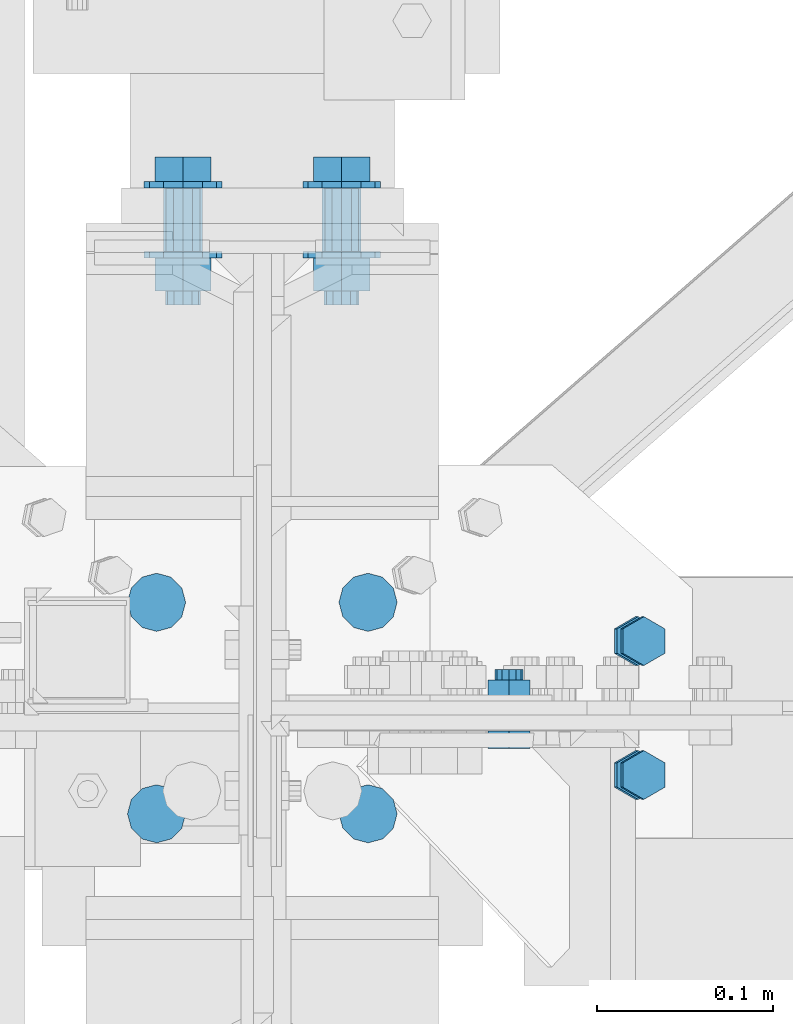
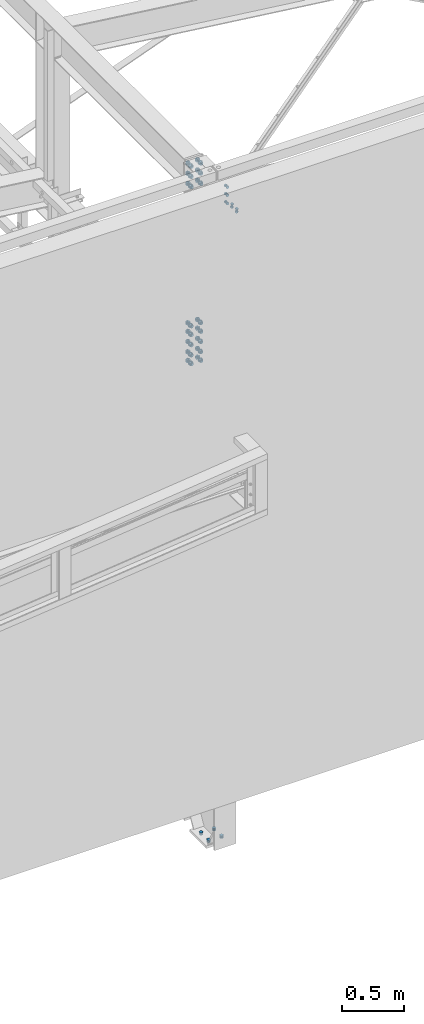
# One storey, part 110 of 3134: 5 mechanical fasteners, 3 elements without a shape of their own.
"""IFC2X3 building model written with IfcOpenShell, lengths in millimetres."""

from ifc_helpers import new_model, si_unit, frame, origin_with_axes, place, context, subcontext, project, spatial, faceted_brep, source, transform, mapped, material, type_object, element, aggregate, save


model = new_model("IFC2X3")

# Units and contexts
model_context = context("Model", 3, precision=1e-05, world=origin_with_axes())
body_context = subcontext(model_context, "Body", "Model", "MODEL_VIEW")
ifc_project = project(units=[si_unit("LENGTHUNIT", "METRE", prefix="MILLI"), si_unit("AREAUNIT", "SQUARE_METRE"), si_unit("VOLUMEUNIT", "CUBIC_METRE"), si_unit("MASSUNIT", "GRAM", prefix="KILO"), si_unit("TIMEUNIT", "SECOND"), si_unit("PLANEANGLEUNIT", "RADIAN"), si_unit("SOLIDANGLEUNIT", "STERADIAN"), si_unit("THERMODYNAMICTEMPERATUREUNIT", "DEGREE_CELSIUS"), si_unit("LUMINOUSINTENSITYUNIT", "LUMEN")], contexts=[model_context])

# Site, building, storey
site_placement = place(None, origin_with_axes())
site = spatial("IfcSite", under=ifc_project, at=site_placement, CompositionType="ELEMENT")
building_placement = place(site_placement, origin_with_axes())
building = spatial("IfcBuilding", under=site, at=building_placement, Name="Undefined", CompositionType="ELEMENT")
storey_placement = place(building_placement, origin_with_axes())
storey = spatial("IfcBuildingStorey", under=building, at=storey_placement, Name="Undefined", CompositionType="ELEMENT", Elevation=0.0)

# Assembly, mechanical fasteners
assembly_1_placement = place(storey_placement, origin_with_axes())
assembly_1 = element("IfcElementAssembly", 1, at=assembly_1_placement, inside=storey, Name="300", AssemblyPlace="NOTDEFINED", PredefinedType="RIGID_FRAME")
ifc_material_1 = material(Name="HR10.9")
mechanical_fastener_type = type_object("IfcMechanicalFastenerType", Name="Bolt assembly")
shared_shape_1 = source(origin_with_axes(), body_context, "Body", "Brep", [
    faceted_brep([(18.475208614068, -17.599999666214, 0.0), (9.23760430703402, -17.599999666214, 16.0), (-9.23760430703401, -17.599999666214, 16.0), (-18.475208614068, -17.599999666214, 2.2625605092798e-15), (-9.23760430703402, -17.599999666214, -16.0), (9.237604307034, -17.599999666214, -16.0), (9.237604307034, -3.70000004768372, -16.0), (-9.23760430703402, -3.70000004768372, -16.0), (-18.475208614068, -3.70000004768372, 2.2625605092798e-15), (-9.23760430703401, -3.70000004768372, 16.0), (9.23760430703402, -3.70000004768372, 16.0), (18.475208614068, -3.70000004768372, 0.0), (10.0, -3.70000004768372, 0.0), (8.66025403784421, -3.70000004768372, 5.0000000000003), (4.9999999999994, -3.70000004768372, 8.66025403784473), (-1.03633598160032e-12, -3.70000004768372, 10.0), (-5.00000000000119, -3.70000004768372, 8.6602540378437), (-8.66025403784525, -3.70000004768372, 4.99999999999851), (-10.0, -3.70000004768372, -2.07267196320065e-12), (-8.66025403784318, -3.70000004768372, -5.00000000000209), (-4.99999999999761, -3.70000004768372, -8.66025403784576), (3.09790571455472e-12, -3.70000004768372, -10.0), (5.00000000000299, -3.70000004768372, -8.66025403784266), (8.66025403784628, -3.70000004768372, -4.99999999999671), (8.66025403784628, 66.2999999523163, -4.99999999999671), (5.00000000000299, 66.2999999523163, -8.66025403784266), (3.09790571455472e-12, 66.2999999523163, -10.0), (-4.99999999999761, 66.2999999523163, -8.66025403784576), (-8.66025403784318, 66.2999999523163, -5.00000000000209), (-10.0, 66.2999999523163, -2.07267196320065e-12), (-8.66025403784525, 66.2999999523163, 4.99999999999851), (-5.00000000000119, 66.2999999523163, 8.6602540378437), (-1.03633598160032e-12, 66.2999999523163, 10.0), (4.9999999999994, 66.2999999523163, 8.66025403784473), (8.66025403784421, 66.2999999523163, 5.0000000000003), (10.0, 66.2999999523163, 0.0), (22.0, -3.70000004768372, 0.0), (19.0525588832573, -3.70000004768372, 11.0000000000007), (10.9999999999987, -3.70000004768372, 19.0525588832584), (-2.27993915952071e-12, -3.70000004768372, 22.0), (-11.0000000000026, -3.70000004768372, 19.0525588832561), (-19.0525588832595, -3.70000004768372, 10.9999999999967), (-22.0, -3.70000004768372, -4.55987831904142e-12), (-19.052558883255, -3.70000004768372, -11.0000000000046), (-10.9999999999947, -3.70000004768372, -19.0525588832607), (6.81539257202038e-12, -3.70000004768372, -22.0), (11.0000000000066, -3.70000004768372, -19.0525588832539), (19.0525588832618, -3.70000004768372, -10.9999999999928), (19.0525588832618, 0.0, -10.9999999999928), (11.0000000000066, 0.0, -19.0525588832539), (6.81539257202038e-12, 0.0, -22.0), (-10.9999999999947, 0.0, -19.0525588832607), (-19.052558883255, 0.0, -11.0000000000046), (-22.0, 0.0, -4.55987831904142e-12), (-19.0525588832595, 0.0, 10.9999999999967), (-11.0000000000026, 0.0, 19.0525588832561), (-2.27993915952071e-12, 0.0, 22.0), (10.9999999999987, 0.0, 19.0525588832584), (19.0525588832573, 0.0, 11.0000000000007), (22.0, 0.0, 0.0), (22.0, 36.0, 0.0), (19.0525588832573, 36.0, 11.0000000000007), (10.9999999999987, 36.0, 19.0525588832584), (-2.27993915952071e-12, 36.0, 22.0), (-11.0000000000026, 36.0, 19.0525588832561), (-19.0525588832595, 36.0, 10.9999999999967), (-22.0, 36.0, -4.55987831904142e-12), (-19.052558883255, 36.0, -11.0000000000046), (-10.9999999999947, 36.0, -19.0525588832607), (6.81539257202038e-12, 36.0, -22.0), (11.0000000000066, 36.0, -19.0525588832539), (19.0525588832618, 36.0, -10.9999999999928), (19.0525588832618, 39.7000000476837, -10.9999999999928), (11.0000000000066, 39.7000000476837, -19.0525588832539), (6.81539257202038e-12, 39.7000000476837, -22.0), (-10.9999999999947, 39.7000000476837, -19.0525588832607), (-19.052558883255, 39.7000000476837, -11.0000000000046), (-22.0, 39.7000000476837, -4.55987831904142e-12), (-19.0525588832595, 39.7000000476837, 10.9999999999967), (-11.0000000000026, 39.7000000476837, 19.0525588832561), (-2.27993915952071e-12, 39.7000000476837, 22.0), (10.9999999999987, 39.7000000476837, 19.0525588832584), (19.0525588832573, 39.7000000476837, 11.0000000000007), (22.0, 39.7000000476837, 0.0), (18.475208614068, 39.7000000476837, 0.0), (9.23760430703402, 39.7000000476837, 16.0), (-9.23760430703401, 39.7000000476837, 16.0), (-18.475208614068, 39.7000000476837, 2.2625605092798e-15), (-9.23760430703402, 39.7000000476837, -16.0), (9.237604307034, 39.7000000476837, -16.0), (9.237604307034, 58.2499992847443, -16.0), (-9.23760430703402, 58.2499992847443, -16.0), (-18.475208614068, 58.2499992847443, 2.2625605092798e-15), (-9.23760430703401, 58.2499992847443, 16.0), (9.23760430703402, 58.2499992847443, 16.0), (18.475208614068, 58.2499992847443, 0.0)], [[[0, 1, 2, 3, 4, 5]], [[6, 7, 8, 9, 10, 11]], [[0, 11, 10, 1]], [[1, 10, 9, 2]], [[2, 9, 8, 3]], [[3, 8, 7, 4]], [[4, 7, 6, 5]], [[5, 6, 11, 0]], [[12, 13, 14, 15, 16, 17, 18, 19, 20, 21, 22, 23]], [[24, 25, 26, 27, 28, 29, 30, 31, 32, 33, 34, 35]], [[12, 35, 34, 13]], [[13, 34, 33, 14]], [[14, 33, 32, 15]], [[15, 32, 31, 16]], [[16, 31, 30, 17]], [[17, 30, 29, 18]], [[18, 29, 28, 19]], [[19, 28, 27, 20]], [[20, 27, 26, 21]], [[21, 26, 25, 22]], [[22, 25, 24, 23]], [[23, 24, 35, 12]], [[36, 37, 38, 39, 40, 41, 42, 43, 44, 45, 46, 47]], [[48, 49, 50, 51, 52, 53, 54, 55, 56, 57, 58, 59]], [[36, 59, 58, 37]], [[37, 58, 57, 38]], [[38, 57, 56, 39]], [[39, 56, 55, 40]], [[40, 55, 54, 41]], [[41, 54, 53, 42]], [[42, 53, 52, 43]], [[43, 52, 51, 44]], [[44, 51, 50, 45]], [[45, 50, 49, 46]], [[46, 49, 48, 47]], [[47, 48, 59, 36]], [[60, 61, 62, 63, 64, 65, 66, 67, 68, 69, 70, 71]], [[72, 73, 74, 75, 76, 77, 78, 79, 80, 81, 82, 83]], [[60, 83, 82, 61]], [[61, 82, 81, 62]], [[62, 81, 80, 63]], [[63, 80, 79, 64]], [[64, 79, 78, 65]], [[65, 78, 77, 66]], [[66, 77, 76, 67]], [[67, 76, 75, 68]], [[68, 75, 74, 69]], [[69, 74, 73, 70]], [[70, 73, 72, 71]], [[71, 72, 83, 60]], [[84, 85, 86, 87, 88, 89]], [[90, 91, 92, 93, 94, 95]], [[84, 95, 94, 85]], [[85, 94, 93, 86]], [[86, 93, 92, 87]], [[87, 92, 91, 88]], [[88, 91, 90, 89]], [[89, 90, 95, 84]]]),
    faceted_brep([(11.0, 19.9, 0.0), (9.52627944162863, 19.9, 5.50000000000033), (5.49999999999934, 19.9, 9.5262794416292), (-1.13996957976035e-12, 19.9, 11.0), (-5.50000000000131, 19.9, 9.52627944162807), (-9.52627944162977, 19.9, 5.49999999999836), (-11.0, 19.9, -2.27993915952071e-12), (-9.5262794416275, 19.9, -5.5000000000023), (-5.49999999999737, 19.9, -9.52627944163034), (3.40769628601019e-12, 19.9, -11.0), (5.50000000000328, 19.9, -9.52627944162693), (9.52627944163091, 19.9, -5.49999999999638), (9.52627944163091, 36.0, -5.49999999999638), (5.50000000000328, 36.0, -9.52627944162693), (3.40769628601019e-12, 36.0, -11.0), (-5.49999999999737, 36.0, -9.52627944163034), (-9.5262794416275, 36.0, -5.5000000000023), (-11.0, 36.0, -2.27993915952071e-12), (-9.52627944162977, 36.0, 5.49999999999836), (-5.50000000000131, 36.0, 9.52627944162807), (-1.13996957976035e-12, 36.0, 11.0), (5.49999999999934, 36.0, 9.5262794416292), (9.52627944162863, 36.0, 5.50000000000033), (11.0, 36.0, 0.0), (11.0, 0.0999999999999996, 0.0), (9.52627944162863, 0.0999999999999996, 5.50000000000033), (5.49999999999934, 0.0999999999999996, 9.5262794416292), (-1.13996957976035e-12, 0.0999999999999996, 11.0), (-5.50000000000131, 0.0999999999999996, 9.52627944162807), (-9.52627944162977, 0.0999999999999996, 5.49999999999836), (-11.0, 0.0999999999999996, -2.27993915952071e-12), (-9.5262794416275, 0.0999999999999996, -5.5000000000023), (-5.49999999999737, 0.0999999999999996, -9.52627944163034), (3.40769628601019e-12, 0.0999999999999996, -11.0), (5.50000000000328, 0.0999999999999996, -9.52627944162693), (9.52627944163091, 0.0999999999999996, -5.49999999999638), (9.52627944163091, 20.1, -5.49999999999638), (5.50000000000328, 20.1, -9.52627944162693), (3.40769628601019e-12, 20.1, -11.0), (-5.49999999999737, 20.1, -9.52627944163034), (-9.5262794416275, 20.1, -5.5000000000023), (-11.0, 20.1, -2.27993915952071e-12), (-9.52627944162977, 20.1, 5.49999999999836), (-5.50000000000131, 20.1, 9.52627944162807), (-1.13996957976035e-12, 20.1, 11.0), (5.49999999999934, 20.1, 9.5262794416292), (9.52627944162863, 20.1, 5.50000000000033), (11.0, 20.1, 0.0)], [[[0, 1, 2, 3, 4, 5, 6, 7, 8, 9, 10, 11]], [[12, 13, 14, 15, 16, 17, 18, 19, 20, 21, 22, 23]], [[0, 23, 22, 1]], [[1, 22, 21, 2]], [[2, 21, 20, 3]], [[3, 20, 19, 4]], [[4, 19, 18, 5]], [[5, 18, 17, 6]], [[6, 17, 16, 7]], [[7, 16, 15, 8]], [[8, 15, 14, 9]], [[9, 14, 13, 10]], [[10, 13, 12, 11]], [[11, 12, 23, 0]], [[24, 25, 26, 27, 28, 29, 30, 31, 32, 33, 34, 35]], [[36, 37, 38, 39, 40, 41, 42, 43, 44, 45, 46, 47]], [[24, 47, 46, 25]], [[25, 46, 45, 26]], [[26, 45, 44, 27]], [[27, 44, 43, 28]], [[28, 43, 42, 29]], [[29, 42, 41, 30]], [[30, 41, 40, 31]], [[31, 40, 39, 32]], [[32, 39, 38, 33]], [[33, 38, 37, 34]], [[34, 37, 36, 35]], [[35, 36, 47, 24]]]),
])
mechanical_fastener_1_placement = place(assembly_1_placement, frame((44200.0, 295.0, 4273.5), z_axis=(-1.0, 0.0, 0.0), x_axis=(0.0, 0.0, -1.0)))
mechanical_fastener_1 = element("IfcMechanicalFastener", 2, at=mechanical_fastener_1_placement, type_object=mechanical_fastener_type, material=ifc_material_1, Name="Bolt assembly", NominalDiameter=20.0, NominalLength=70.0, context=body_context, shape_type="MappedRepresentation", body=[
    mapped(shared_shape_1, transform((0.0, 0.0, -45.0))),
    mapped(shared_shape_1, transform((85.0, 0.0, -45.0))),
    mapped(shared_shape_1, transform((185.0, 0.0, -45.0))),
    mapped(shared_shape_1, transform((285.0, 0.0, -45.0))),
    mapped(shared_shape_1, transform((370.0, 0.0, -45.0))),
    mapped(shared_shape_1, transform((0.0, 0.0, 45.0))),
    mapped(shared_shape_1, transform((85.0, 0.0, 45.0))),
    mapped(shared_shape_1, transform((185.0, 0.0, 45.0))),
    mapped(shared_shape_1, transform((285.0, 0.0, 45.0))),
    mapped(shared_shape_1, transform((370.0, 0.0, 45.0))),
])
mechanical_fastener_2_placement = place(assembly_1_placement, frame((44200.0, 295.0, 5841.5), z_axis=(-1.0, 0.0, 0.0), x_axis=(0.0, 0.0, -1.0)))
mechanical_fastener_2 = element("IfcMechanicalFastener", 3, at=mechanical_fastener_2_placement, type_object=mechanical_fastener_type, material=ifc_material_1, Name="Bolt assembly", NominalDiameter=20.0, NominalLength=70.0, context=body_context, shape_type="MappedRepresentation", body=[
    mapped(shared_shape_1, transform((0.0, 0.0, -45.0))),
    mapped(shared_shape_1, transform((100.0, 0.0, -45.0))),
    mapped(shared_shape_1, transform((200.0, 0.0, -45.0))),
    mapped(shared_shape_1, transform((0.0, 0.0, 45.0))),
    mapped(shared_shape_1, transform((100.0, 0.0, 45.0))),
    mapped(shared_shape_1, transform((200.0, 0.0, 45.0))),
])
aggregate(assembly_1, [mechanical_fastener_1, mechanical_fastener_2])

assembly_2_placement = place(storey_placement, origin_with_axes())
assembly_2 = element("IfcElementAssembly", 4, at=assembly_2_placement, inside=storey, Name="300", AssemblyPlace="NOTDEFINED", PredefinedType="RIGID_FRAME")
ifc_material_2 = material(Name="8.8")
shared_shape_2 = source(origin_with_axes(), body_context, "Body", "Brep", [
    faceted_brep([(13.856406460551, -23.0499999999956, 0.0), (6.92820323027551, -23.0499999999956, 12.0), (-6.92820323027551, -23.0499999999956, 12.0), (-13.856406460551, -23.0499999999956, 1.69692038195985e-15), (-6.92820323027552, -23.0499999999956, -12.0), (6.9282032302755, -23.0499999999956, -12.0), (6.9282032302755, -13.0499999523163, -12.0), (-6.92820323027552, -13.0499999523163, -12.0), (-13.856406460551, -13.0499999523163, 1.69692038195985e-15), (-6.92820323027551, -13.0499999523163, 12.0), (6.92820323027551, -13.0499999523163, 12.0), (13.856406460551, -13.0499999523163, 0.0), (8.0, -13.0499999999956, 0.0), (6.92820323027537, -13.0499999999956, 4.00000000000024), (3.99999999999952, -13.0499999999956, 6.92820323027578), (-8.29068785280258e-13, -13.0499999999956, 8.0), (-4.00000000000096, -13.0499999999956, 6.92820323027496), (-6.9282032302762, -13.0499999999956, 3.99999999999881), (-8.0, -13.0499999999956, -1.65813757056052e-12), (-6.92820323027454, -13.0499999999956, -4.00000000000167), (-3.99999999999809, -13.0499999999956, -6.92820323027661), (2.47832457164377e-12, -13.0499999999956, -8.0), (4.00000000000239, -13.0499999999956, -6.92820323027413), (6.92820323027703, -13.0499999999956, -3.99999999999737), (6.92820323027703, 21.9500000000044, -3.99999999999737), (4.00000000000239, 21.9500000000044, -6.92820323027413), (2.47832457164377e-12, 21.9500000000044, -8.0), (-3.99999999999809, 21.9500000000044, -6.92820323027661), (-6.92820323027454, 21.9500000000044, -4.00000000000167), (-8.0, 21.9500000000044, -1.65813757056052e-12), (-6.9282032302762, 21.9500000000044, 3.99999999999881), (-4.00000000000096, 21.9500000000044, 6.92820323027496), (-8.29068785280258e-13, 21.9500000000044, 8.0), (3.99999999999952, 21.9500000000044, 6.92820323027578), (6.92820323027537, 21.9500000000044, 4.00000000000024), (8.0, 21.9500000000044, 0.0), (13.856406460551, 3.04999995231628, 0.0), (6.92820323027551, 3.04999995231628, 12.0), (-6.92820323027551, 3.04999995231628, 12.0), (-13.856406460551, 3.04999995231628, 1.69692038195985e-15), (-6.92820323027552, 3.04999995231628, -12.0), (6.9282032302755, 3.04999995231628, -12.0), (6.9282032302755, 16.0499999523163, -12.0), (-6.92820323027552, 16.0499999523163, -12.0), (-13.856406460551, 16.0499999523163, 1.69692038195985e-15), (-6.92820323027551, 16.0499999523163, 12.0), (6.92820323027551, 16.0499999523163, 12.0), (13.856406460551, 16.0499999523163, 0.0)], [[[0, 1, 2, 3, 4, 5]], [[6, 7, 8, 9, 10, 11]], [[0, 11, 10, 1]], [[1, 10, 9, 2]], [[2, 9, 8, 3]], [[3, 8, 7, 4]], [[4, 7, 6, 5]], [[5, 6, 11, 0]], [[12, 13, 14, 15, 16, 17, 18, 19, 20, 21, 22, 23]], [[24, 25, 26, 27, 28, 29, 30, 31, 32, 33, 34, 35]], [[12, 35, 34, 13]], [[13, 34, 33, 14]], [[14, 33, 32, 15]], [[15, 32, 31, 16]], [[16, 31, 30, 17]], [[17, 30, 29, 18]], [[18, 29, 28, 19]], [[19, 28, 27, 20]], [[20, 27, 26, 21]], [[21, 26, 25, 22]], [[22, 25, 24, 23]], [[23, 24, 35, 12]], [[36, 37, 38, 39, 40, 41]], [[42, 43, 44, 45, 46, 47]], [[36, 47, 46, 37]], [[37, 46, 45, 38]], [[38, 45, 44, 39]], [[39, 44, 43, 40]], [[40, 43, 42, 41]], [[41, 42, 47, 36]]]),
    faceted_brep([(9.0, -12.9499999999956, 0.0), (7.79422863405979, -12.9499999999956, 4.50000000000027), (4.49999999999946, -12.9499999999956, 7.79422863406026), (-9.3270238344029e-13, -12.9499999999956, 9.0), (-4.50000000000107, -12.9499999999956, 7.79422863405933), (-7.79422863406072, -12.9499999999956, 4.49999999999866), (-9.0, -12.9499999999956, -1.86540476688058e-12), (-7.79422863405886, -12.9499999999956, -4.50000000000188), (-4.49999999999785, -12.9499999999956, -7.79422863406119), (2.78811514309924e-12, -12.9499999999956, -9.0), (4.50000000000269, -12.9499999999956, -7.7942286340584), (7.79422863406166, -12.9499999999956, -4.49999999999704), (7.79422863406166, -2.94999995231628, -4.49999999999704), (4.50000000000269, -2.94999995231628, -7.7942286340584), (2.78811514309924e-12, -2.94999995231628, -9.0), (-4.49999999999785, -2.94999995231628, -7.79422863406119), (-7.79422863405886, -2.94999995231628, -4.50000000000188), (-9.0, -2.94999995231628, -1.86540476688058e-12), (-7.79422863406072, -2.94999995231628, 4.49999999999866), (-4.50000000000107, -2.94999995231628, 7.79422863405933), (-9.3270238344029e-13, -2.94999995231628, 9.0), (4.49999999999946, -2.94999995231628, 7.79422863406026), (7.79422863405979, -2.94999995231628, 4.50000000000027), (9.0, -2.94999995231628, 0.0), (9.0, -3.14999995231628, 0.0), (7.79422863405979, -3.14999995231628, 4.50000000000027), (4.49999999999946, -3.14999995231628, 7.79422863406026), (-9.3270238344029e-13, -3.14999995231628, 9.0), (-4.50000000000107, -3.14999995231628, 7.79422863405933), (-7.79422863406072, -3.14999995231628, 4.49999999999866), (-9.0, -3.14999995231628, -1.86540476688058e-12), (-7.79422863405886, -3.14999995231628, -4.50000000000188), (-4.49999999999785, -3.14999995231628, -7.79422863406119), (2.78811514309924e-12, -3.14999995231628, -9.0), (4.50000000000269, -3.14999995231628, -7.7942286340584), (7.79422863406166, -3.14999995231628, -4.49999999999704), (7.79422863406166, 3.04999995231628, -4.49999999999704), (4.50000000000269, 3.04999995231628, -7.7942286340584), (2.78811514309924e-12, 3.04999995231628, -9.0), (-4.49999999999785, 3.04999995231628, -7.79422863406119), (-7.79422863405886, 3.04999995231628, -4.50000000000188), (-9.0, 3.04999995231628, -1.86540476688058e-12), (-7.79422863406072, 3.04999995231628, 4.49999999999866), (-4.50000000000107, 3.04999995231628, 7.79422863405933), (-9.3270238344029e-13, 3.04999995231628, 9.0), (4.49999999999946, 3.04999995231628, 7.79422863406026), (7.79422863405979, 3.04999995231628, 4.50000000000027), (9.0, 3.04999995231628, 0.0)], [[[0, 1, 2, 3, 4, 5, 6, 7, 8, 9, 10, 11]], [[12, 13, 14, 15, 16, 17, 18, 19, 20, 21, 22, 23]], [[0, 23, 22, 1]], [[1, 22, 21, 2]], [[2, 21, 20, 3]], [[3, 20, 19, 4]], [[4, 19, 18, 5]], [[5, 18, 17, 6]], [[6, 17, 16, 7]], [[7, 16, 15, 8]], [[8, 15, 14, 9]], [[9, 14, 13, 10]], [[10, 13, 12, 11]], [[11, 12, 23, 0]], [[24, 25, 26, 27, 28, 29, 30, 31, 32, 33, 34, 35]], [[36, 37, 38, 39, 40, 41, 42, 43, 44, 45, 46, 47]], [[24, 47, 46, 25]], [[25, 46, 45, 26]], [[26, 45, 44, 27]], [[27, 44, 43, 28]], [[28, 43, 42, 29]], [[29, 42, 41, 30]], [[30, 41, 40, 31]], [[31, 40, 39, 32]], [[32, 39, 38, 33]], [[33, 38, 37, 34]], [[34, 37, 36, 35]], [[35, 36, 47, 24]]]),
])
mechanical_fastener_3_placement = place(assembly_2_placement, frame((44340.0041779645, 0.0, 5732.29610612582), z_axis=(1.0, 0.0, 0.0), x_axis=(0.0, 0.0, -1.0)))
mechanical_fastener_3 = element("IfcMechanicalFastener", 5, at=mechanical_fastener_3_placement, type_object=mechanical_fastener_type, material=ifc_material_2, Name="Bolt assembly", NominalDiameter=16.0, NominalLength=35.0, context=body_context, shape_type="MappedRepresentation", body=[
    mapped(shared_shape_2, transform((0.0, 0.0, 0.0))),
    mapped(shared_shape_2, transform((80.0, 0.0, 0.0))),
    mapped(shared_shape_2, transform((160.0, 0.0, 0.0))),
])
shared_shape_3 = source(origin_with_axes(), body_context, "Body", "Brep", [
    faceted_brep([(13.856406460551, -19.1964928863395, 0.0), (6.92820323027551, -19.1964928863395, 12.0), (-6.92820323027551, -19.1964928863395, 12.0), (-13.856406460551, -19.1964928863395, 1.69692038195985e-15), (-6.92820323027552, -19.1964928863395, -12.0), (6.9282032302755, -19.1964928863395, -12.0), (6.9282032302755, -9.19649288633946, -12.0), (-6.92820323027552, -9.19649288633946, -12.0), (-13.856406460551, -9.19649288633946, 1.69692038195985e-15), (-6.92820323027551, -9.19649288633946, 12.0), (6.92820323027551, -9.19649288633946, 12.0), (13.856406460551, -9.19649288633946, 0.0), (8.0, -9.19649288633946, 0.0), (6.92820323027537, -9.19649288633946, 4.00000000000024), (3.99999999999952, -9.19649288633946, 6.92820323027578), (-8.29068785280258e-13, -9.19649288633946, 8.0), (-4.00000000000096, -9.19649288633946, 6.92820323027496), (-6.9282032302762, -9.19649288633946, 3.99999999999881), (-8.0, -9.19649288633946, -1.65813757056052e-12), (-6.92820323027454, -9.19649288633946, -4.00000000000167), (-3.99999999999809, -9.19649288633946, -6.92820323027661), (2.47832457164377e-12, -9.19649288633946, -8.0), (4.00000000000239, -9.19649288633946, -6.92820323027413), (6.92820323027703, -9.19649288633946, -3.99999999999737), (6.92820323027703, 25.8035071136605, -3.99999999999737), (4.00000000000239, 25.8035071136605, -6.92820323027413), (2.47832457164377e-12, 25.8035071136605, -8.0), (-3.99999999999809, 25.8035071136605, -6.92820323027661), (-6.92820323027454, 25.8035071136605, -4.00000000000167), (-8.0, 25.8035071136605, -1.65813757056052e-12), (-6.9282032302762, 25.8035071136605, 3.99999999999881), (-4.00000000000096, 25.8035071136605, 6.92820323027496), (-8.29068785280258e-13, 25.8035071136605, 8.0), (3.99999999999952, 25.8035071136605, 6.92820323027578), (6.92820323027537, 25.8035071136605, 4.00000000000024), (8.0, 25.8035071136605, 0.0), (13.856406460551, 8.00313978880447, 0.0), (6.92820323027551, 8.00313978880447, 12.0), (-6.92820323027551, 8.00313978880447, 12.0), (-13.856406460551, 8.00313978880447, 1.69692038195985e-15), (-6.92820323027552, 8.00313978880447, -12.0), (6.9282032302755, 8.00313978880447, -12.0), (6.9282032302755, 21.0031397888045, -12.0), (-6.92820323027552, 21.0031397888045, -12.0), (-13.856406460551, 21.0031397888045, 1.69692038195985e-15), (-6.92820323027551, 21.0031397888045, 12.0), (6.92820323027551, 21.0031397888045, 12.0), (13.856406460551, 21.0031397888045, 0.0)], [[[0, 1, 2, 3, 4, 5]], [[6, 7, 8, 9, 10, 11]], [[0, 11, 10, 1]], [[1, 10, 9, 2]], [[2, 9, 8, 3]], [[3, 8, 7, 4]], [[4, 7, 6, 5]], [[5, 6, 11, 0]], [[12, 13, 14, 15, 16, 17, 18, 19, 20, 21, 22, 23]], [[24, 25, 26, 27, 28, 29, 30, 31, 32, 33, 34, 35]], [[12, 35, 34, 13]], [[13, 34, 33, 14]], [[14, 33, 32, 15]], [[15, 32, 31, 16]], [[16, 31, 30, 17]], [[17, 30, 29, 18]], [[18, 29, 28, 19]], [[19, 28, 27, 20]], [[20, 27, 26, 21]], [[21, 26, 25, 22]], [[22, 25, 24, 23]], [[23, 24, 35, 12]], [[36, 37, 38, 39, 40, 41]], [[42, 43, 44, 45, 46, 47]], [[36, 47, 46, 37]], [[37, 46, 45, 38]], [[38, 45, 44, 39]], [[39, 44, 43, 40]], [[40, 43, 42, 41]], [[41, 42, 47, 36]]]),
    faceted_brep([(9.0, -0.0968602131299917, 0.0), (7.79422863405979, -0.0968602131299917, 4.50000000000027), (4.49999999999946, -0.0968602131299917, 7.79422863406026), (-9.3270238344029e-13, -0.0968602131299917, 9.0), (-4.50000000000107, -0.0968602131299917, 7.79422863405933), (-7.79422863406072, -0.0968602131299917, 4.49999999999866), (-9.0, -0.0968602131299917, -1.86540476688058e-12), (-7.79422863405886, -0.0968602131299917, -4.50000000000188), (-4.49999999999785, -0.0968602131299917, -7.79422863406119), (2.78811514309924e-12, -0.0968602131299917, -9.0), (4.50000000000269, -0.0968602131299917, -7.7942286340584), (7.79422863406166, -0.0968602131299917, -4.49999999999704), (7.79422863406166, 8.00313978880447, -4.49999999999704), (4.50000000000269, 8.00313978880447, -7.7942286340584), (2.78811514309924e-12, 8.00313978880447, -9.0), (-4.49999999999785, 8.00313978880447, -7.79422863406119), (-7.79422863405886, 8.00313978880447, -4.50000000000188), (-9.0, 8.00313978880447, -1.86540476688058e-12), (-7.79422863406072, 8.00313978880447, 4.49999999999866), (-4.50000000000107, 8.00313978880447, 7.79422863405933), (-9.3270238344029e-13, 8.00313978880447, 9.0), (4.49999999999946, 8.00313978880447, 7.79422863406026), (7.79422863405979, 8.00313978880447, 4.50000000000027), (9.0, 8.00313978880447, 0.0), (9.0, -9.09649288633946, 0.0), (7.79422863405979, -9.09649288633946, 4.50000000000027), (4.49999999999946, -9.09649288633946, 7.79422863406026), (-9.3270238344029e-13, -9.09649288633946, 9.0), (-4.50000000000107, -9.09649288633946, 7.79422863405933), (-7.79422863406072, -9.09649288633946, 4.49999999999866), (-9.0, -9.09649288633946, -1.86540476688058e-12), (-7.79422863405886, -9.09649288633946, -4.50000000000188), (-4.49999999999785, -9.09649288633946, -7.79422863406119), (2.78811514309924e-12, -9.09649288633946, -9.0), (4.50000000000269, -9.09649288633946, -7.7942286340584), (7.79422863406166, -9.09649288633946, -4.49999999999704), (7.79422863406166, 0.103506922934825, -4.49999999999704), (4.50000000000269, 0.103506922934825, -7.7942286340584), (2.78811514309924e-12, 0.103506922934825, -9.0), (-4.49999999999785, 0.103506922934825, -7.79422863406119), (-7.79422863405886, 0.103506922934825, -4.50000000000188), (-9.0, 0.103506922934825, -1.86540476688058e-12), (-7.79422863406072, 0.103506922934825, 4.49999999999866), (-4.50000000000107, 0.103506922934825, 7.79422863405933), (-9.3270238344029e-13, 0.103506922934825, 9.0), (4.49999999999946, 0.103506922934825, 7.79422863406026), (7.79422863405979, 0.103506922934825, 4.50000000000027), (9.0, 0.103506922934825, 0.0)], [[[0, 1, 2, 3, 4, 5, 6, 7, 8, 9, 10, 11]], [[12, 13, 14, 15, 16, 17, 18, 19, 20, 21, 22, 23]], [[0, 23, 22, 1]], [[1, 22, 21, 2]], [[2, 21, 20, 3]], [[3, 20, 19, 4]], [[4, 19, 18, 5]], [[5, 18, 17, 6]], [[6, 17, 16, 7]], [[7, 16, 15, 8]], [[8, 15, 14, 9]], [[9, 14, 13, 10]], [[10, 13, 12, 11]], [[11, 12, 23, 0]], [[24, 25, 26, 27, 28, 29, 30, 31, 32, 33, 34, 35]], [[36, 37, 38, 39, 40, 41, 42, 43, 44, 45, 46, 47]], [[24, 47, 46, 25]], [[25, 46, 45, 26]], [[26, 45, 44, 27]], [[27, 44, 43, 28]], [[28, 43, 42, 29]], [[29, 42, 41, 30]], [[30, 41, 40, 31]], [[31, 40, 39, 32]], [[32, 39, 38, 33]], [[33, 38, 37, 34]], [[34, 37, 36, 35]], [[35, 36, 47, 24]]]),
])
mechanical_fastener_4_placement = place(assembly_2_placement, frame((44414.2248162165, 37.9995130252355, 5493.63063425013), z_axis=(0.992623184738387, 1.63108538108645e-05, -0.12124031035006), x_axis=(1.62000016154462e-05, -0.999999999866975, -1.90000018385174e-06)))
mechanical_fastener_4 = element("IfcMechanicalFastener", 6, at=mechanical_fastener_4_placement, type_object=mechanical_fastener_type, material=ifc_material_2, Name="Bolt assembly", NominalDiameter=16.0, NominalLength=35.0, context=body_context, shape_type="MappedRepresentation", body=[
    mapped(shared_shape_3, transform((0.0, 0.0, 0.0))),
    mapped(shared_shape_3, transform((76.0, 0.0, 0.0))),
])
aggregate(assembly_2, [mechanical_fastener_4, mechanical_fastener_3])

# Assembly, mechanical fastener
assembly_3_placement = place(storey_placement, origin_with_axes())
assembly_3 = element("IfcElementAssembly", 7, at=assembly_3_placement, inside=storey, Name="IPE500", AssemblyPlace="NOTDEFINED", PredefinedType="RIGID_FRAME")
shared_shape_4 = source(origin_with_axes(), body_context, "Body", "Brep", [
    faceted_brep([(16.5, -25.0, 0.0), (14.289419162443, -25.0, 8.25000000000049), (8.24999999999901, -25.0, 14.2894191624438), (-1.70995436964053e-12, -25.0, 16.5), (-8.25000000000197, -25.0, 14.2894191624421), (-14.2894191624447, -25.0, 8.24999999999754), (-16.5, -25.0, -3.41990873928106e-12), (-14.2894191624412, -25.0, -8.25000000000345), (-8.24999999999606, -25.0, -14.2894191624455), (5.11154442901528e-12, -25.0, -16.5), (8.25000000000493, -25.0, -14.2894191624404), (14.2894191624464, -25.0, -8.24999999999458), (14.2894191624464, 0.1, -8.24999999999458), (8.25000000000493, 0.1, -14.2894191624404), (5.11154442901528e-12, 0.1, -16.5), (-8.24999999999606, 0.1, -14.2894191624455), (-14.2894191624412, 0.1, -8.25000000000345), (-16.5, 0.1, -3.41990873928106e-12), (-14.2894191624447, 0.1, 8.24999999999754), (-8.25000000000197, 0.1, 14.2894191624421), (-1.70995436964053e-12, 0.1, 16.5), (8.24999999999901, 0.1, 14.2894191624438), (14.289419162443, 0.1, 8.25000000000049), (16.5, 0.1, 0.0)], [[[0, 1, 2, 3, 4, 5, 6, 7, 8, 9, 10, 11]], [[12, 13, 14, 15, 16, 17, 18, 19, 20, 21, 22, 23]], [[0, 23, 22, 1]], [[1, 22, 21, 2]], [[2, 21, 20, 3]], [[3, 20, 19, 4]], [[4, 19, 18, 5]], [[5, 18, 17, 6]], [[6, 17, 16, 7]], [[7, 16, 15, 8]], [[8, 15, 14, 9]], [[9, 14, 13, 10]], [[10, 13, 12, 11]], [[11, 12, 23, 0]]]),
])
mechanical_fastener_5_placement = place(assembly_3_placement, frame((44200.0, -200.0, -575.0), z_axis=(1.0, 0.0, 0.0), x_axis=(0.0, 1.0, 0.0)))
mechanical_fastener_5 = element("IfcMechanicalFastener", 8, at=mechanical_fastener_5_placement, type_object=mechanical_fastener_type, material=ifc_material_2, Name="Bolt assembly", NominalDiameter=30.0, NominalLength=25.0, context=body_context, shape_type="MappedRepresentation", body=[
    mapped(shared_shape_4, transform((140.0, 0.0, -60.0))),
    mapped(shared_shape_4, transform((140.0, 0.0, 60.0))),
    mapped(shared_shape_4, transform((260.0, 0.0, -60.0))),
    mapped(shared_shape_4, transform((260.0, 0.0, 60.0))),
])
aggregate(assembly_3, [mechanical_fastener_5])

save(model, "model.ifc")
